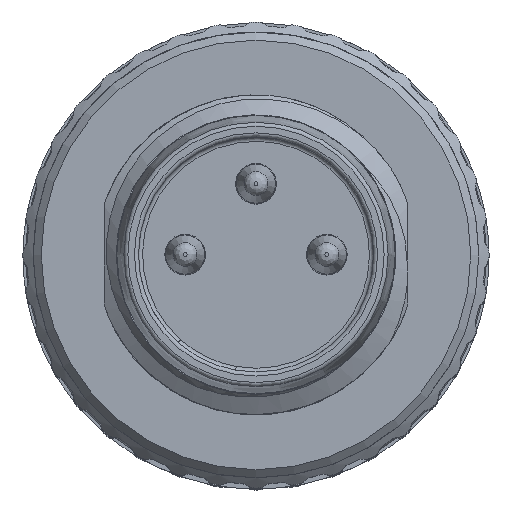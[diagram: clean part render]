
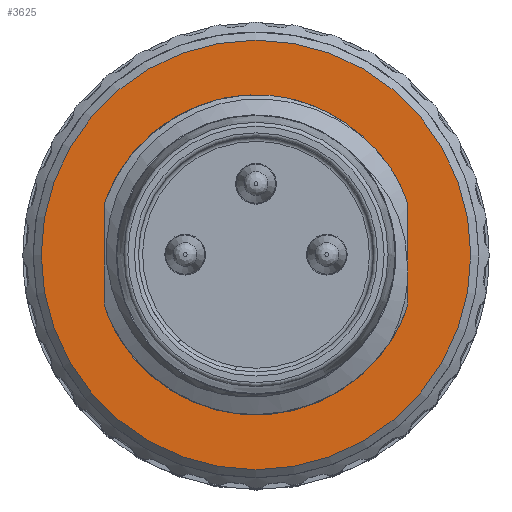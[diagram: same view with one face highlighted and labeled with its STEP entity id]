
A CAD part, top view. The second image highlights one B-rep face of the part: STEP entity #3625.
In plain terms, the highlighted planar face has unit normal (0, 0, 1).
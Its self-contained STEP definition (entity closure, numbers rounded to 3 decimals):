
#41=B_SPLINE_CURVE_WITH_KNOTS('',3,(#23269,#23270,#23271,#23272),
 .UNSPECIFIED.,.F.,.F.,(4,4),(0.,1.),.UNSPECIFIED.);
#42=B_SPLINE_CURVE_WITH_KNOTS('',3,(#23276,#23277,#23278,#23279,#23280,
#23281),.UNSPECIFIED.,.F.,.F.,(4,2,4),(0.,0.5,1.),.UNSPECIFIED.);
#1184=LINE('',#23256,#1955);
#1185=LINE('',#23263,#1956);
#1186=LINE('',#23265,#1957);
#1955=VECTOR('',#19166,1.);
#1956=VECTOR('',#19171,1.);
#1957=VECTOR('',#19172,1.);
#3346=FACE_BOUND('',#5520,.T.);
#3347=FACE_BOUND('',#5521,.T.);
#3625=ADVANCED_FACE('',(#3346,#3347),#4361,.F.);
#4361=PLANE('',#16699);
#5520=EDGE_LOOP('',(#7431));
#5521=EDGE_LOOP('',(#7432,#7433,#7434,#7435,#7436,#7437,#7438,#7439,#7440,
#7441));
#7431=ORIENTED_EDGE('',*,*,#13426,.T.);
#7432=ORIENTED_EDGE('',*,*,#13427,.F.);
#7433=ORIENTED_EDGE('',*,*,#13428,.F.);
#7434=ORIENTED_EDGE('',*,*,#13429,.F.);
#7435=ORIENTED_EDGE('',*,*,#13430,.T.);
#7436=ORIENTED_EDGE('',*,*,#13431,.T.);
#7437=ORIENTED_EDGE('',*,*,#13432,.T.);
#7438=ORIENTED_EDGE('',*,*,#13433,.T.);
#7439=ORIENTED_EDGE('',*,*,#13434,.F.);
#7440=ORIENTED_EDGE('',*,*,#13435,.T.);
#7441=ORIENTED_EDGE('',*,*,#13436,.F.);
#11598=VERTEX_POINT('',#23255);
#11599=VERTEX_POINT('',#23257);
#11600=VERTEX_POINT('',#23258);
#11601=VERTEX_POINT('',#23260);
#11602=VERTEX_POINT('',#23262);
#11603=VERTEX_POINT('',#23264);
#11604=VERTEX_POINT('',#23266);
#11605=VERTEX_POINT('',#23268);
#11606=VERTEX_POINT('',#23273);
#11607=VERTEX_POINT('',#23275);
#11608=VERTEX_POINT('',#23282);
#13426=EDGE_CURVE('',#11598,#11598,#15676,.T.);
#13427=EDGE_CURVE('',#11599,#11600,#1184,.T.);
#13428=EDGE_CURVE('',#11601,#11599,#15677,.T.);
#13429=EDGE_CURVE('',#11602,#11601,#15678,.T.);
#13430=EDGE_CURVE('',#11602,#11603,#1185,.T.);
#13431=EDGE_CURVE('',#11603,#11604,#1186,.T.);
#13432=EDGE_CURVE('',#11604,#11605,#15679,.T.);
#13433=EDGE_CURVE('',#11605,#11606,#41,.T.);
#13434=EDGE_CURVE('',#11607,#11606,#15680,.T.);
#13435=EDGE_CURVE('',#11607,#11608,#42,.T.);
#13436=EDGE_CURVE('',#11600,#11608,#15681,.T.);
#15676=CIRCLE('',#16693,5.3);
#15677=CIRCLE('',#16694,3.95);
#15678=CIRCLE('',#16695,0.5);
#15679=CIRCLE('',#16696,0.5);
#15680=CIRCLE('',#16697,3.95);
#15681=CIRCLE('',#16698,3.45);
#16693=AXIS2_PLACEMENT_3D('',#23254,#19164,#19165);
#16694=AXIS2_PLACEMENT_3D('',#23259,#19167,#19168);
#16695=AXIS2_PLACEMENT_3D('',#23261,#19169,#19170);
#16696=AXIS2_PLACEMENT_3D('',#23267,#19173,#19174);
#16697=AXIS2_PLACEMENT_3D('',#23274,#19175,#19176);
#16698=AXIS2_PLACEMENT_3D('',#23283,#19177,#19178);
#16699=AXIS2_PLACEMENT_3D('',#23284,#19179,#19180);
#19164=DIRECTION('',(0.,0.,1.));
#19165=DIRECTION('',(-1.,0.,0.));
#19166=DIRECTION('',(0.5,0.866,0.));
#19167=DIRECTION('',(0.,0.,1.));
#19168=DIRECTION('',(-1.,0.,0.));
#19169=DIRECTION('',(0.,0.,1.));
#19170=DIRECTION('',(-1.,0.,0.));
#19171=DIRECTION('',(-0.009,1.,0.));
#19172=DIRECTION('',(0.009,1.,0.));
#19173=DIRECTION('',(0.,0.,-1.));
#19174=DIRECTION('',(-1.,0.,0.));
#19175=DIRECTION('',(0.,0.,1.));
#19176=DIRECTION('',(1.,0.,0.));
#19177=DIRECTION('',(0.,0.,1.));
#19178=DIRECTION('',(1.,0.,0.));
#19179=DIRECTION('',(0.,0.,-1.));
#19180=DIRECTION('',(1.,0.,0.));
#23254=CARTESIAN_POINT('',(0.,0.,-7.15));
#23255=CARTESIAN_POINT('',(-5.3,0.,-7.15));
#23256=CARTESIAN_POINT('',(4.525,2.388,-7.15));
#23257=CARTESIAN_POINT('',(0.93,-3.839,-7.15));
#23258=CARTESIAN_POINT('',(1.302,-3.195,-7.15));
#23259=CARTESIAN_POINT('',(0.,0.,-7.15));
#23260=CARTESIAN_POINT('',(-3.709,-1.358,-7.15));
#23261=CARTESIAN_POINT('',(-3.24,-1.186,-7.15));
#23262=CARTESIAN_POINT('',(-3.74,-1.191,-7.15));
#23263=CARTESIAN_POINT('',(-3.706,-5.086,-7.15));
#23264=CARTESIAN_POINT('',(-3.75,0.,-7.15));
#23265=CARTESIAN_POINT('',(-3.75,0.,-7.15));
#23266=CARTESIAN_POINT('',(-3.74,1.191,-7.15));
#23267=CARTESIAN_POINT('',(-3.24,1.186,-7.15));
#23268=CARTESIAN_POINT('',(-3.736,1.243,-7.15));
#23269=CARTESIAN_POINT('',(-3.736,1.243,-7.15));
#23270=CARTESIAN_POINT('',(-3.721,1.302,-7.15));
#23271=CARTESIAN_POINT('',(-3.705,1.36,-7.15));
#23272=CARTESIAN_POINT('',(-3.687,1.418,-7.15));
#23273=CARTESIAN_POINT('',(-3.687,1.418,-7.15));
#23274=CARTESIAN_POINT('',(0.,0.,-7.15));
#23275=CARTESIAN_POINT('',(-0.141,3.947,-7.15));
#23276=CARTESIAN_POINT('',(-0.141,3.947,-7.15));
#23277=CARTESIAN_POINT('',(0.983,3.911,-7.15));
#23278=CARTESIAN_POINT('',(2.058,3.384,-7.15));
#23279=CARTESIAN_POINT('',(3.447,1.587,-7.15));
#23280=CARTESIAN_POINT('',(3.692,0.384,-7.15));
#23281=CARTESIAN_POINT('',(3.382,-0.681,-7.15));
#23282=CARTESIAN_POINT('',(3.382,-0.681,-7.15));
#23283=CARTESIAN_POINT('',(0.,0.,-7.15));
#23284=CARTESIAN_POINT('',(0.,5.,-7.15));
